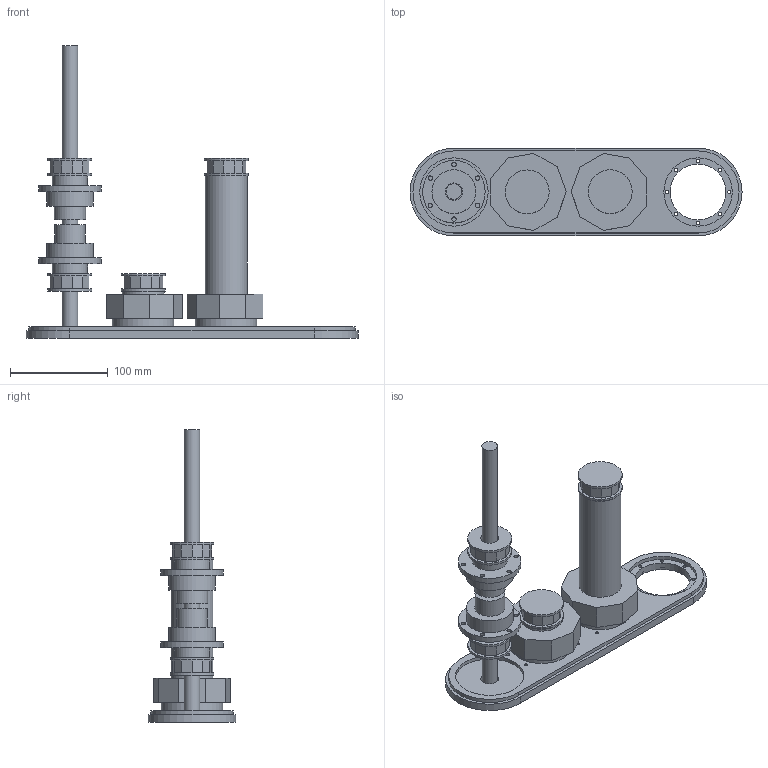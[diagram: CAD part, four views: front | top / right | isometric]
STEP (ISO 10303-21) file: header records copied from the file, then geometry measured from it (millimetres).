
FILE_DESCRIPTION(('FreeCAD Model'),'2;1');
FILE_NAME('Open CASCADE Shape Model','2024-11-01T17:57:12',(''),(''), 'Open CASCADE STEP processor 7.8','FreeCAD','Unknown');
FILE_SCHEMA(('AUTOMOTIVE_DESIGN { 1 0 10303 214 1 1 1 1 }'));
Length unit declared in the file: millimetre
Products named in the file (7): Linkage2; Body005; Body004; Body003; Body002; Body001; Body
Assembly tree (6 placements, depth 2):
  Linkage2
    Body005
    Body004
    Body003
    Body002
    Body001
    Body
Bounding box: 340 x 90 x 300 mm (x, y, z)
Volume: 1010336.7 mm3; surface area: 180495 mm2
Topology: 6 solids, 6 shells, 204 faces, 459 edges, 294 vertices
Faces by surface type: plane 105, cylinder 81, cone 18
Full cylindrical faces by diameter (mm): 3.4 x18, 4.5 x12, 6.1 x18, 16 x3, 18 x3, 31 x1, 32 x1, 36 x2, 43 x2, 45 x8, 48 x2, 57 x1, 63 x2, 64 x2, 70 x2
Entity records: 5983 total; most frequent: DIRECTION 1043, CARTESIAN_POINT 964, ORIENTED_EDGE 918, EDGE_CURVE 459, AXIS2_PLACEMENT_3D 373, FACE_BOUND 299, EDGE_LOOP 299, LINE 297
